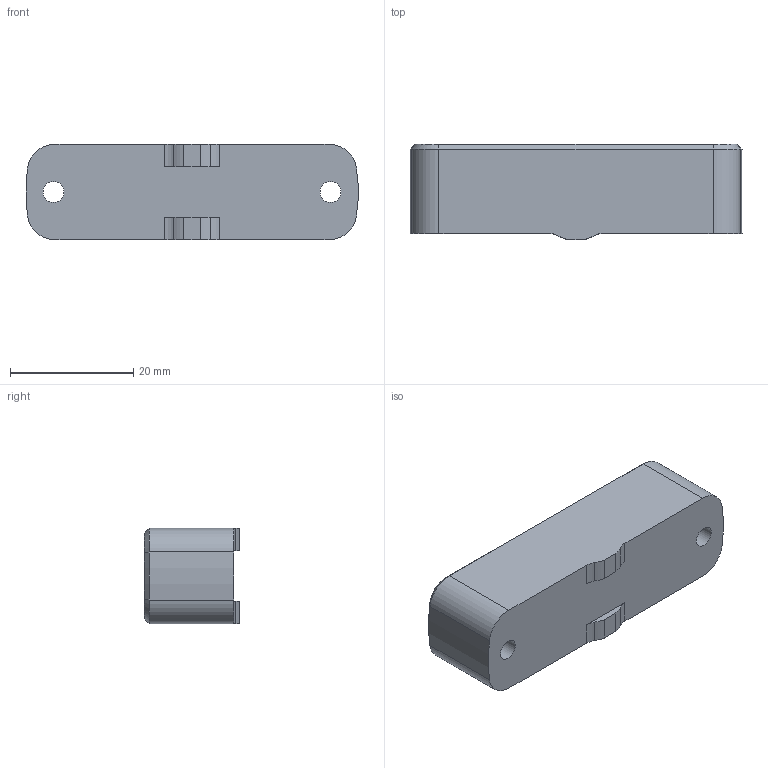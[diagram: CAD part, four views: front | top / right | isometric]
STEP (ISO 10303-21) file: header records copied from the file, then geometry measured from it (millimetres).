
FILE_DESCRIPTION( ( 'STEP AP203' ), '1' );
FILE_NAME( 'C:/Temp/Ganter_Step_05_03_2020/data/1_4/gn2283/Screw-on level GN 2283-ALN-54-G-50-JV.stp', '2020-03-05T10:48:11', ( 'License CC BY-ND 4.0' ), ( 'CADENAS' ), ' ', 'PARTsolutions', ' ' );
FILE_SCHEMA( ( 'CONFIG_CONTROL_DESIGN' ) );
Length unit declared in the file: millimetre
Products named in the file (1): _Screw-on level GN 2283-ALN-54-G-50-JV
Bounding box: 53.94 x 15.5 x 15.5 mm (x, y, z)
Volume: 11291 mm3; surface area: 4396.8 mm2
Topology: 1 solids, 1 shells, 62 faces, 148 edges, 94 vertices
Faces by surface type: cylinder 26, plane 26, cone 8, sphere 2
Full cylindrical faces by diameter (mm): 3.4 x2, 6.3 x2
Entity records: 1888 total; most frequent: CARTESIAN_POINT 361, DIRECTION 330, ORIENTED_EDGE 288, EDGE_CURVE 144, AXIS2_PLACEMENT_3D 127, VERTEX_POINT 94, EDGE_LOOP 76, LINE 76
